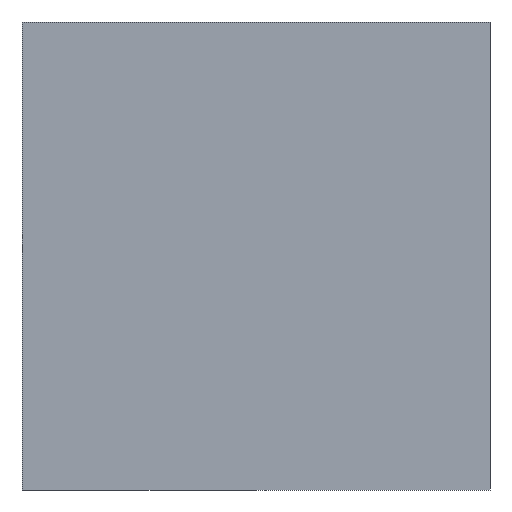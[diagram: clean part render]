
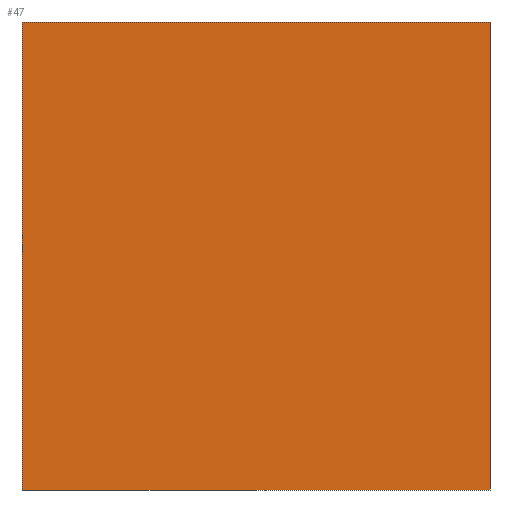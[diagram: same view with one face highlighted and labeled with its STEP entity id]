
A CAD part, left-side view. The second image highlights one B-rep face of the part: STEP entity #47.
In plain terms, the highlighted planar face has unit normal (-1, 0, 0).
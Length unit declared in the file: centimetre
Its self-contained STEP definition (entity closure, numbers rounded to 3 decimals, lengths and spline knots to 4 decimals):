
#11 = VERTEX_POINT ( 'NONE', #372 ) ;
#15 = DIRECTION ( 'NONE',  ( 0., 0., -1. ) ) ;
#31 = EDGE_CURVE ( 'NONE', #11, #188, #262, .T. ) ;
#37 = DIRECTION ( 'NONE',  ( 1., 0., 0. ) ) ;
#47 = ADVANCED_FACE ( 'NONE', ( #183 ), #218, .F. ) ;
#52 = EDGE_LOOP ( 'NONE', ( #305, #369, #105, #162 ) ) ;
#58 = CARTESIAN_POINT ( 'NONE',  ( 0., 0., 1000. ) ) ;
#75 = DIRECTION ( 'NONE',  ( 0., -1., 0. ) ) ;
#94 = EDGE_CURVE ( 'NONE', #379, #188, #190, .T. ) ;
#101 = VECTOR ( 'NONE', #221, 100. ) ;
#105 = ORIENTED_EDGE ( 'NONE', *, *, #225, .F. ) ;
#115 = CARTESIAN_POINT ( 'NONE',  ( 0., 0., 1000. ) ) ;
#117 = CARTESIAN_POINT ( 'NONE',  ( 0., 1000., 1000. ) ) ;
#131 = VECTOR ( 'NONE', #15, 100. ) ;
#157 = VERTEX_POINT ( 'NONE', #117 ) ;
#162 = ORIENTED_EDGE ( 'NONE', *, *, #254, .T. ) ;
#183 = FACE_OUTER_BOUND ( 'NONE', #52, .T. ) ;
#188 = VERTEX_POINT ( 'NONE', #301 ) ;
#190 = LINE ( 'NONE', #115, #454 ) ;
#218 = PLANE ( 'NONE',  #290 ) ;
#221 = DIRECTION ( 'NONE',  ( 0., -1., 0. ) ) ;
#225 = EDGE_CURVE ( 'NONE', #157, #379, #376, .T. ) ;
#232 = CARTESIAN_POINT ( 'NONE',  ( 0., 1000., 1000. ) ) ;
#237 = LINE ( 'NONE', #232, #131 ) ;
#254 = EDGE_CURVE ( 'NONE', #157, #11, #237, .T. ) ;
#262 = LINE ( 'NONE', #298, #101 ) ;
#290 = AXIS2_PLACEMENT_3D ( 'NONE', #437, #37, #328 ) ;
#298 = CARTESIAN_POINT ( 'NONE',  ( 0., 1000., 0. ) ) ;
#301 = CARTESIAN_POINT ( 'NONE',  ( 0., 0., 0. ) ) ;
#305 = ORIENTED_EDGE ( 'NONE', *, *, #31, .T. ) ;
#328 = DIRECTION ( 'NONE',  ( 0., 0., -1. ) ) ;
#369 = ORIENTED_EDGE ( 'NONE', *, *, #94, .F. ) ;
#372 = CARTESIAN_POINT ( 'NONE',  ( 0., 1000., 0. ) ) ;
#376 = LINE ( 'NONE', #418, #434 ) ;
#379 = VERTEX_POINT ( 'NONE', #58 ) ;
#406 = DIRECTION ( 'NONE',  ( 0., 0., -1. ) ) ;
#418 = CARTESIAN_POINT ( 'NONE',  ( 0., 1000., 1000. ) ) ;
#434 = VECTOR ( 'NONE', #75, 100. ) ;
#437 = CARTESIAN_POINT ( 'NONE',  ( 0., 1000., 1000. ) ) ;
#454 = VECTOR ( 'NONE', #406, 100. ) ;
